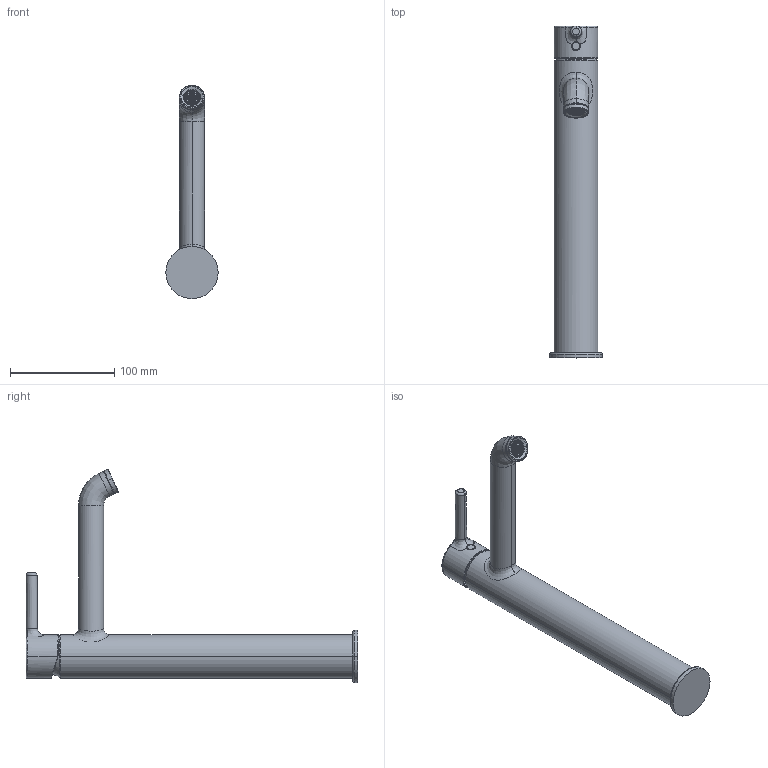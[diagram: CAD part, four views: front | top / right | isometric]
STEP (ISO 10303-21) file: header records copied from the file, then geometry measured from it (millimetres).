
FILE_DESCRIPTION (( 'STEP AP203' ), '1' );
FILE_NAME ('2601FH(2022)+54472207(2022).STEP', '2022-01-12T07:38:53', ( '' ), ( '' ), 'SwSTEP 2.0', 'SolidWorks 2016', '' );
FILE_SCHEMA (( 'CONFIG_CONTROL_DESIGN' ));
Length unit declared in the file: millimetre
Products named in the file (1): 2601FH(2022)+54472207(2022)
Bounding box: 50 x 317.71 x 204.15 mm (x, y, z)
Surface area: 76355.4 mm2 (no closed solid volume)
Topology: 0 solids, 16 shells, 3344 faces, 9801 edges, 6445 vertices
Faces by surface type: plane 2708, cylinder 288, bspline 229, cone 57, torus 41, sphere 21
Entity records: 133802 total; most frequent: CARTESIAN_POINT 54814, ORIENTED_EDGE 19568, DIRECTION 11280, EDGE_CURVE 9787, VERTEX_POINT 6439, B_SPLINE_CURVE_WITH_KNOTS 5516, EDGE_LOOP 4119, AXIS2_PLACEMENT_3D 3963
